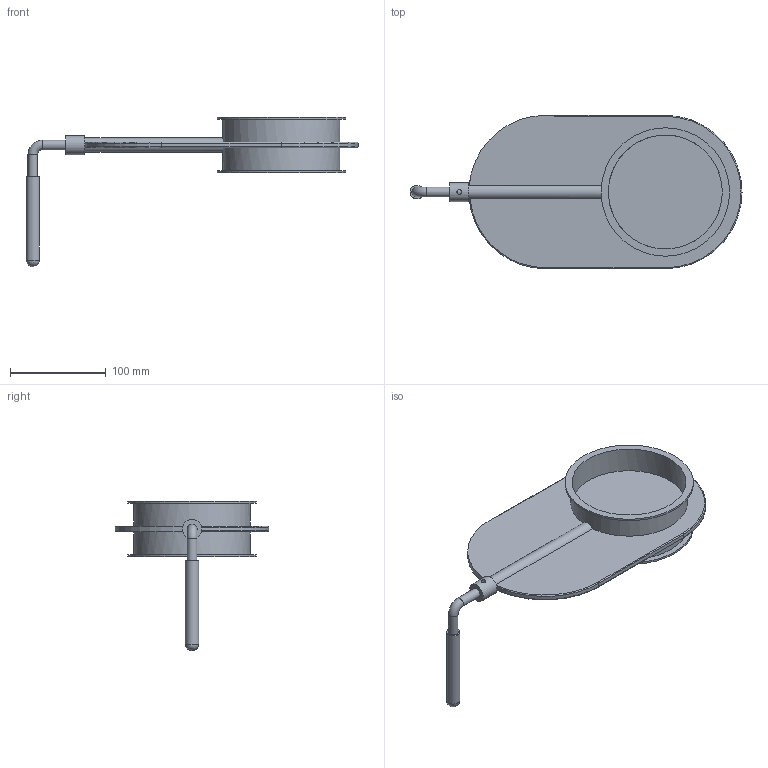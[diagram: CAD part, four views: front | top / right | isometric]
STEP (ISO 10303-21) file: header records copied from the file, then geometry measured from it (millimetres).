
FILE_DESCRIPTION((''),'2;1');
FILE_NAME('U:\Wolfgang\Marcel-3D\fertig\Kapitel 9\1211077.stp','2011-10-11T12:57:19',('iwienholt'),(''),'Autodesk Inventor 2010','Autodesk Inventor 2010','');
FILE_SCHEMA(('AUTOMOTIVE_DESIGN { 1 0 10303 214 1 1 1 1 }'));
Length unit declared in the file: millimetre
Products named in the file (3): 1211077; 1211077-1; Hebel-Ronde DN120
Assembly tree (2 placements, depth 2):
  1211077
    1211077-1
    Hebel-Ronde DN120
Bounding box: 346.45 x 160.07 x 155.95 mm (x, y, z)
Volume: 226224.5 mm3; surface area: 219897.4 mm2
Topology: 3 solids, 3 shells, 53 faces, 131 edges, 84 vertices
Faces by surface type: cylinder 25, plane 22, torus 5, sphere 1
Full cylindrical faces by diameter (mm): 4.917 x1, 10 x2, 10.5 x1, 14 x1, 15 x1, 20 x1, 119 x2, 122 x2, 134 x2
Entity records: 1698 total; most frequent: CARTESIAN_POINT 459, DIRECTION 254, ORIENTED_EDGE 208, AXIS2_PLACEMENT_3D 108, EDGE_CURVE 104, EDGE_LOOP 76, VERTEX_POINT 74, FACE_OUTER_BOUND 53
